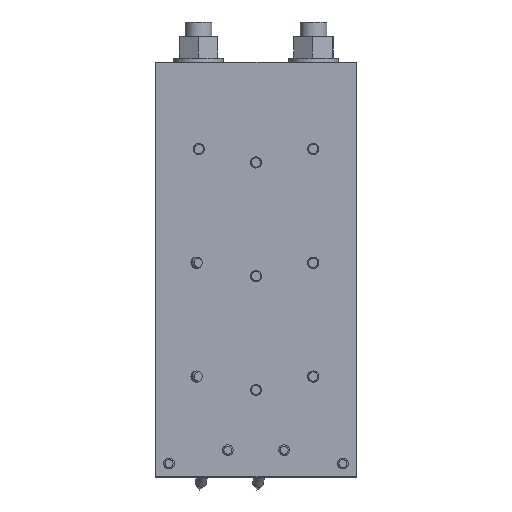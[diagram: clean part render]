
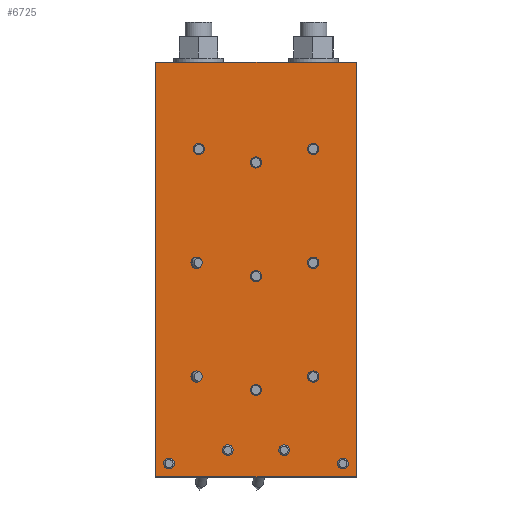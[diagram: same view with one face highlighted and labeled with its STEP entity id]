
A CAD part, top view. The second image highlights one B-rep face of the part: STEP entity #6725.
In plain terms, the highlighted planar face has unit normal (0, 0, 1) as drawn and (0, -1, 0) by its records, which use the part's own axes.
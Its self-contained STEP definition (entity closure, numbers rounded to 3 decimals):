
#732=CIRCLE('',#7976,4.188);
#733=CIRCLE('',#7977,4.188);
#734=CIRCLE('',#7978,4.188);
#735=CIRCLE('',#7979,4.188);
#736=CIRCLE('',#7980,4.188);
#737=CIRCLE('',#7981,4.188);
#738=CIRCLE('',#7982,4.188);
#739=CIRCLE('',#7983,4.188);
#740=CIRCLE('',#7984,4.188);
#2260=ORIENTED_EDGE('',*,*,#3057,.T.);
#2261=ORIENTED_EDGE('',*,*,#3058,.T.);
#2262=ORIENTED_EDGE('',*,*,#3059,.T.);
#2263=ORIENTED_EDGE('',*,*,#3060,.T.);
#2264=ORIENTED_EDGE('',*,*,#3061,.T.);
#2265=ORIENTED_EDGE('',*,*,#3062,.T.);
#2266=ORIENTED_EDGE('',*,*,#3063,.T.);
#2267=ORIENTED_EDGE('',*,*,#3064,.T.);
#2268=ORIENTED_EDGE('',*,*,#3065,.T.);
#2269=ORIENTED_EDGE('',*,*,#3045,.T.);
#2270=ORIENTED_EDGE('',*,*,#3049,.T.);
#2271=ORIENTED_EDGE('',*,*,#3052,.T.);
#2272=ORIENTED_EDGE('',*,*,#3055,.T.);
#3045=EDGE_CURVE('',#3658,#3659,#4151,.T.);
#3049=EDGE_CURVE('',#3659,#3662,#4155,.T.);
#3052=EDGE_CURVE('',#3662,#3664,#4158,.T.);
#3055=EDGE_CURVE('',#3664,#3658,#4161,.T.);
#3057=EDGE_CURVE('',#3666,#3666,#732,.T.);
#3058=EDGE_CURVE('',#3667,#3667,#733,.T.);
#3059=EDGE_CURVE('',#3668,#3668,#734,.T.);
#3060=EDGE_CURVE('',#3669,#3669,#735,.T.);
#3061=EDGE_CURVE('',#3670,#3670,#736,.T.);
#3062=EDGE_CURVE('',#3671,#3671,#737,.T.);
#3063=EDGE_CURVE('',#3672,#3672,#738,.T.);
#3064=EDGE_CURVE('',#3673,#3673,#739,.T.);
#3065=EDGE_CURVE('',#3674,#3674,#740,.T.);
#3658=VERTEX_POINT('',#11745);
#3659=VERTEX_POINT('',#11746);
#3662=VERTEX_POINT('',#11754);
#3664=VERTEX_POINT('',#11760);
#3666=VERTEX_POINT('',#11770);
#3667=VERTEX_POINT('',#11772);
#3668=VERTEX_POINT('',#11774);
#3669=VERTEX_POINT('',#11776);
#3670=VERTEX_POINT('',#11778);
#3671=VERTEX_POINT('',#11780);
#3672=VERTEX_POINT('',#11782);
#3673=VERTEX_POINT('',#11784);
#3674=VERTEX_POINT('',#11786);
#4151=LINE('',#11744,#4639);
#4155=LINE('',#11753,#4643);
#4158=LINE('',#11759,#4646);
#4161=LINE('',#11765,#4649);
#4639=VECTOR('',#9901,1000.);
#4643=VECTOR('',#9907,1000.);
#4646=VECTOR('',#9912,1000.);
#4649=VECTOR('',#9917,1000.);
#5367=EDGE_LOOP('',(#2260));
#5368=EDGE_LOOP('',(#2261));
#5369=EDGE_LOOP('',(#2262));
#5370=EDGE_LOOP('',(#2263));
#5371=EDGE_LOOP('',(#2264));
#5372=EDGE_LOOP('',(#2265));
#5373=EDGE_LOOP('',(#2266));
#5374=EDGE_LOOP('',(#2267));
#5375=EDGE_LOOP('',(#2268));
#5376=EDGE_LOOP('',(#2269,#2270,#2271,#2272));
#6113=FACE_BOUND('',#5367,.T.);
#6114=FACE_BOUND('',#5368,.T.);
#6115=FACE_BOUND('',#5369,.T.);
#6116=FACE_BOUND('',#5370,.T.);
#6117=FACE_BOUND('',#5371,.T.);
#6118=FACE_BOUND('',#5372,.T.);
#6119=FACE_BOUND('',#5373,.T.);
#6120=FACE_BOUND('',#5374,.T.);
#6121=FACE_BOUND('',#5375,.T.);
#6122=FACE_BOUND('',#5376,.T.);
#6334=PLANE('',#7975);
#6725=ADVANCED_FACE('',(#6113,#6114,#6115,#6116,#6117,#6118,#6119,#6120,
#6121,#6122),#6334,.T.);
#7975=AXIS2_PLACEMENT_3D('',#11768,#9921,#9922);
#7976=AXIS2_PLACEMENT_3D('',#11769,#9923,#9924);
#7977=AXIS2_PLACEMENT_3D('',#11771,#9925,#9926);
#7978=AXIS2_PLACEMENT_3D('',#11773,#9927,#9928);
#7979=AXIS2_PLACEMENT_3D('',#11775,#9929,#9930);
#7980=AXIS2_PLACEMENT_3D('',#11777,#9931,#9932);
#7981=AXIS2_PLACEMENT_3D('',#11779,#9933,#9934);
#7982=AXIS2_PLACEMENT_3D('',#11781,#9935,#9936);
#7983=AXIS2_PLACEMENT_3D('',#11783,#9937,#9938);
#7984=AXIS2_PLACEMENT_3D('',#11785,#9939,#9940);
#9901=DIRECTION('',(0.,0.,-1.));
#9907=DIRECTION('',(1.,0.,0.));
#9912=DIRECTION('',(0.,0.,1.));
#9917=DIRECTION('',(-1.,0.,0.));
#9921=DIRECTION('',(0.,-1.,0.));
#9922=DIRECTION('',(0.,0.,-1.));
#9923=DIRECTION('',(0.,1.,0.));
#9924=DIRECTION('',(0.,0.,-1.));
#9925=DIRECTION('',(0.,1.,0.));
#9926=DIRECTION('',(0.,0.,-1.));
#9927=DIRECTION('',(0.,1.,0.));
#9928=DIRECTION('',(0.,0.,-1.));
#9929=DIRECTION('',(0.,1.,0.));
#9930=DIRECTION('',(0.,0.,-1.));
#9931=DIRECTION('',(0.,1.,0.));
#9932=DIRECTION('',(0.,0.,-1.));
#9933=DIRECTION('',(0.,1.,0.));
#9934=DIRECTION('',(0.,0.,-1.));
#9935=DIRECTION('',(0.,1.,0.));
#9936=DIRECTION('',(0.,0.,-1.));
#9937=DIRECTION('',(0.,1.,0.));
#9938=DIRECTION('',(0.,0.,-1.));
#9939=DIRECTION('',(0.,1.,0.));
#9940=DIRECTION('',(0.,0.,-1.));
#11744=CARTESIAN_POINT('',(0.,0.,0.));
#11745=CARTESIAN_POINT('',(0.,0.,310.));
#11746=CARTESIAN_POINT('',(0.,0.,0.));
#11753=CARTESIAN_POINT('',(2.94,0.,0.));
#11754=CARTESIAN_POINT('',(150.,0.,0.));
#11759=CARTESIAN_POINT('',(150.,0.,0.));
#11760=CARTESIAN_POINT('',(150.,0.,310.));
#11765=CARTESIAN_POINT('',(152.94,0.,310.));
#11768=CARTESIAN_POINT('',(2.94,0.,0.));
#11769=CARTESIAN_POINT('',(75.,0.,235.));
#11770=CARTESIAN_POINT('',(75.,0.,230.812));
#11771=CARTESIAN_POINT('',(75.,0.,150.));
#11772=CARTESIAN_POINT('',(75.,0.,145.812));
#11773=CARTESIAN_POINT('',(75.,0.,65.));
#11774=CARTESIAN_POINT('',(75.,0.,60.812));
#11775=CARTESIAN_POINT('',(117.75,0.,245.));
#11776=CARTESIAN_POINT('',(117.75,0.,240.812));
#11777=CARTESIAN_POINT('',(117.75,0.,160.));
#11778=CARTESIAN_POINT('',(117.75,0.,155.812));
#11779=CARTESIAN_POINT('',(32.25,0.,245.));
#11780=CARTESIAN_POINT('',(32.25,0.,240.812));
#11781=CARTESIAN_POINT('',(30.581,0.,160.));
#11782=CARTESIAN_POINT('',(30.581,0.,155.812));
#11783=CARTESIAN_POINT('',(117.75,0.,75.));
#11784=CARTESIAN_POINT('',(117.75,0.,70.812));
#11785=CARTESIAN_POINT('',(30.581,0.,75.));
#11786=CARTESIAN_POINT('',(30.581,0.,70.812));
